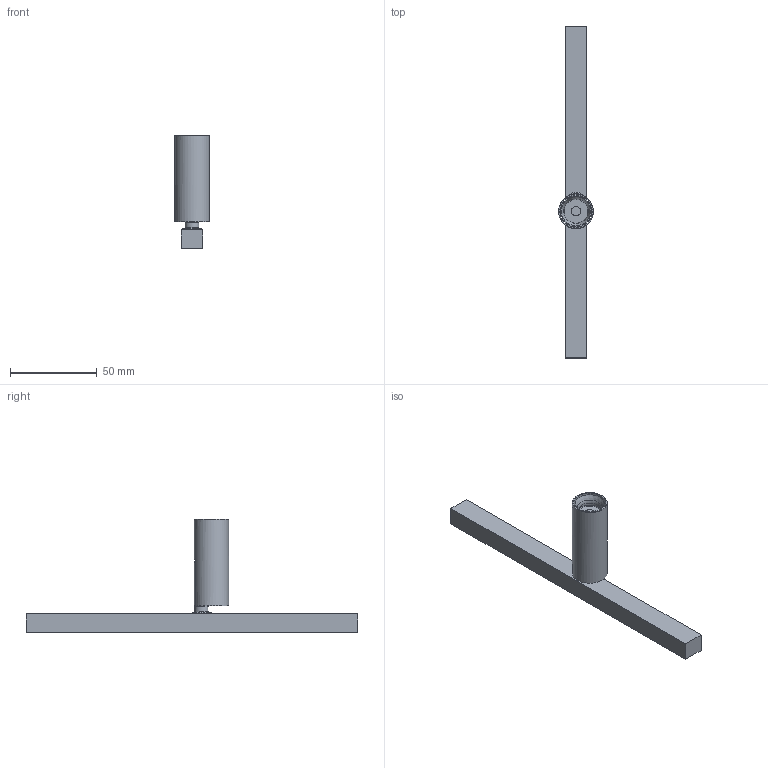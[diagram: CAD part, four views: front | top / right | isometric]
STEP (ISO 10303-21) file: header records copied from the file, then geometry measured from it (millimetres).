
FILE_DESCRIPTION(/* description */ (''),/* implementation_level */ '2;1');
FILE_NAME(/* name */ '081654_-.stp',/* time_stamp */ '2021-09-06T16:28:05+02:00',/* author */ (''),/* organization */ (''),/* preprocessor_version */ 'ST-DEVELOPER v16.7',/* originating_system */ 'SIEMENS PLM Software NX 1911',/* authorisation */ '');
FILE_SCHEMA (('AUTOMOTIVE_DESIGN { 1 0 10303 214 3 1 1 1 }'));
Length unit declared in the file: millimetre
Products named in the file (1): Hamp3528AD860asr
Bounding box: 20 x 191.75 x 65.38 mm (x, y, z)
Surface area: 13843.7 mm2 (no closed solid volume)
Topology: 0 solids, 58 shells, 58 faces, 280 edges, 271 vertices
Faces by surface type: plane 30, cylinder 15, bspline 7, cone 3, torus 3
Full cylindrical faces by diameter (mm): 8 x1, 11 x1, 13.7 x1, 20 x1
Entity records: 3782 total; most frequent: CARTESIAN_POINT 1145, DIRECTION 442, ORIENTED_EDGE 268, VERTEX_POINT 268, EDGE_CURVE 268, AXIS2_PLACEMENT_3D 162, LINE 118, VECTOR 118
